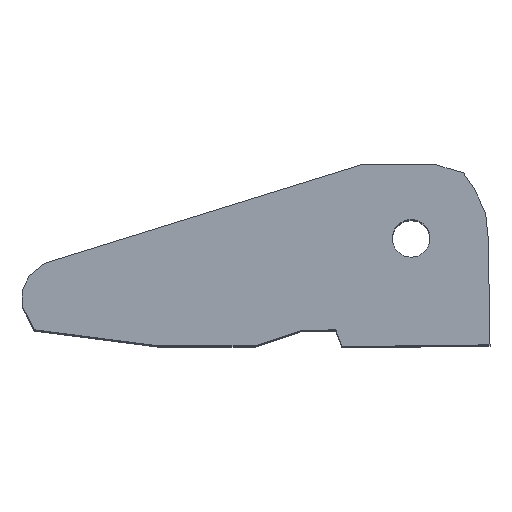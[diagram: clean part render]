
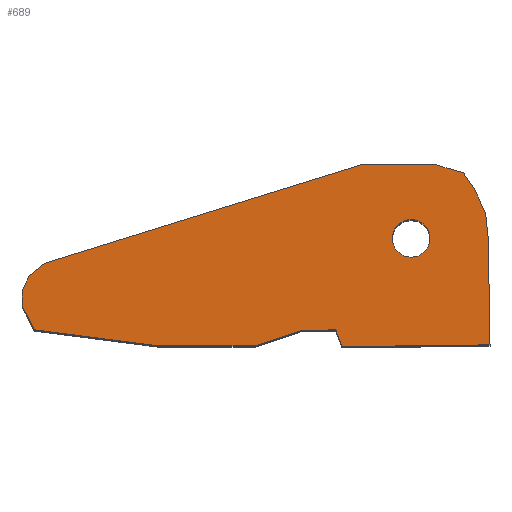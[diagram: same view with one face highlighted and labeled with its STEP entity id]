
A CAD part, top view. The second image highlights one B-rep face of the part: STEP entity #689.
In plain terms, the highlighted planar face has unit normal (0, 0, 1).
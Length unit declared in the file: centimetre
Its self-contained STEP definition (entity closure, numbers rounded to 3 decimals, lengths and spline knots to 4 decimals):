
#207=VERTEX_POINT('',#1357);
#208=VERTEX_POINT('',#1360);
#209=VERTEX_POINT('',#1361);
#210=VERTEX_POINT('',#1363);
#211=VERTEX_POINT('',#1365);
#212=VERTEX_POINT('',#1367);
#213=VERTEX_POINT('',#1369);
#214=VERTEX_POINT('',#1371);
#215=VERTEX_POINT('',#1373);
#216=VERTEX_POINT('',#1375);
#217=VERTEX_POINT('',#1377);
#218=VERTEX_POINT('',#1379);
#219=VERTEX_POINT('',#1381);
#220=VERTEX_POINT('',#1383);
#221=VERTEX_POINT('',#1385);
#222=VERTEX_POINT('',#1387);
#223=VERTEX_POINT('',#1389);
#224=VERTEX_POINT('',#1391);
#279=EDGE_CURVE('',#207,#207,#741,.T.);
#280=EDGE_CURVE('',#208,#209,#938,.T.);
#281=EDGE_CURVE('',#210,#208,#939,.T.);
#282=EDGE_CURVE('',#211,#210,#940,.T.);
#283=EDGE_CURVE('',#212,#211,#941,.T.);
#284=EDGE_CURVE('',#213,#212,#942,.T.);
#285=EDGE_CURVE('',#214,#213,#943,.T.);
#286=EDGE_CURVE('',#215,#214,#944,.T.);
#287=EDGE_CURVE('',#216,#215,#945,.T.);
#288=EDGE_CURVE('',#217,#216,#946,.T.);
#289=EDGE_CURVE('',#218,#217,#947,.T.);
#290=EDGE_CURVE('',#219,#218,#948,.T.);
#291=EDGE_CURVE('',#220,#219,#949,.T.);
#292=EDGE_CURVE('',#221,#220,#950,.T.);
#293=EDGE_CURVE('',#222,#221,#951,.T.);
#294=EDGE_CURVE('',#223,#222,#952,.T.);
#295=EDGE_CURVE('',#224,#223,#953,.T.);
#296=EDGE_CURVE('',#209,#224,#954,.T.);
#386=ORIENTED_EDGE('',*,*,#279,.T.);
#387=ORIENTED_EDGE('',*,*,#280,.F.);
#388=ORIENTED_EDGE('',*,*,#281,.F.);
#389=ORIENTED_EDGE('',*,*,#282,.F.);
#390=ORIENTED_EDGE('',*,*,#283,.F.);
#391=ORIENTED_EDGE('',*,*,#284,.F.);
#392=ORIENTED_EDGE('',*,*,#285,.F.);
#393=ORIENTED_EDGE('',*,*,#286,.F.);
#394=ORIENTED_EDGE('',*,*,#287,.F.);
#395=ORIENTED_EDGE('',*,*,#288,.F.);
#396=ORIENTED_EDGE('',*,*,#289,.F.);
#397=ORIENTED_EDGE('',*,*,#290,.F.);
#398=ORIENTED_EDGE('',*,*,#291,.F.);
#399=ORIENTED_EDGE('',*,*,#292,.F.);
#400=ORIENTED_EDGE('',*,*,#293,.F.);
#401=ORIENTED_EDGE('',*,*,#294,.F.);
#402=ORIENTED_EDGE('',*,*,#295,.F.);
#403=ORIENTED_EDGE('',*,*,#296,.F.);
#598=EDGE_LOOP('',(#386));
#599=EDGE_LOOP('',(#387,#388,#389,#390,#391,#392,#393,#394,#395,#396,#397,
#398,#399,#400,#401,#402,#403));
#644=FACE_BOUND('',#598,.T.);
#645=FACE_BOUND('',#599,.T.);
#689=ADVANCED_FACE('',(#644,#645),#1221,.T.);
#741=CIRCLE('',#1071,1.27);
#938=LINE('',#1359,#1130);
#939=LINE('',#1362,#1131);
#940=LINE('',#1364,#1132);
#941=LINE('',#1366,#1133);
#942=LINE('',#1368,#1134);
#943=LINE('',#1370,#1135);
#944=LINE('',#1372,#1136);
#945=LINE('',#1374,#1137);
#946=LINE('',#1376,#1138);
#947=LINE('',#1378,#1139);
#948=LINE('',#1380,#1140);
#949=LINE('',#1382,#1141);
#950=LINE('',#1384,#1142);
#951=LINE('',#1386,#1143);
#952=LINE('',#1388,#1144);
#953=LINE('',#1390,#1145);
#954=LINE('',#1392,#1146);
#1071=AXIS2_PLACEMENT_3D('',#1356,#1584,#1585);
#1072=AXIS2_PLACEMENT_3D('',#1358,#1586,$);
#1130=VECTOR('',#1587,1.);
#1131=VECTOR('',#1588,1.);
#1132=VECTOR('',#1589,1.);
#1133=VECTOR('',#1590,1.);
#1134=VECTOR('',#1591,1.);
#1135=VECTOR('',#1592,1.);
#1136=VECTOR('',#1593,1.);
#1137=VECTOR('',#1594,1.);
#1138=VECTOR('',#1595,1.);
#1139=VECTOR('',#1596,1.);
#1140=VECTOR('',#1597,1.);
#1141=VECTOR('',#1598,1.);
#1142=VECTOR('',#1599,1.);
#1143=VECTOR('',#1600,1.);
#1144=VECTOR('',#1601,1.);
#1145=VECTOR('',#1602,1.);
#1146=VECTOR('',#1603,1.);
#1221=PLANE('',#1072);
#1356=CARTESIAN_POINT('',(190.9706,35.2673,50.8));
#1357=CARTESIAN_POINT('',(189.7006,35.2673,50.8));
#1358=CARTESIAN_POINT('',(181.9646,32.9095,50.8));
#1359=CARTESIAN_POINT('',(185.8824,29.0916,50.8));
#1360=CARTESIAN_POINT('',(185.8824,29.0916,50.8));
#1361=CARTESIAN_POINT('',(183.4886,29.0317,50.8));
#1362=CARTESIAN_POINT('',(186.3013,27.9546,50.8));
#1363=CARTESIAN_POINT('',(186.3013,27.9546,50.8));
#1364=CARTESIAN_POINT('',(196.2952,28.0742,50.8));
#1365=CARTESIAN_POINT('',(196.2952,28.0742,50.8));
#1366=CARTESIAN_POINT('',(196.1755,35.3153,50.8));
#1367=CARTESIAN_POINT('',(196.1755,35.3153,50.8));
#1368=CARTESIAN_POINT('',(195.9959,36.9311,50.8));
#1369=CARTESIAN_POINT('',(195.9959,36.9311,50.8));
#1370=CARTESIAN_POINT('',(195.2778,38.5469,50.8));
#1371=CARTESIAN_POINT('',(195.2778,38.5469,50.8));
#1372=CARTESIAN_POINT('',(194.4998,39.6839,50.8));
#1373=CARTESIAN_POINT('',(194.4998,39.6839,50.8));
#1374=CARTESIAN_POINT('',(192.7045,40.2225,50.8));
#1375=CARTESIAN_POINT('',(192.7045,40.2225,50.8));
#1376=CARTESIAN_POINT('',(187.7375,40.2823,50.8));
#1377=CARTESIAN_POINT('',(187.7375,40.2823,50.8));
#1378=CARTESIAN_POINT('',(166.1939,33.5798,50.8));
#1379=CARTESIAN_POINT('',(166.1939,33.5798,50.8));
#1380=CARTESIAN_POINT('',(165.1765,32.742,50.8));
#1381=CARTESIAN_POINT('',(165.1765,32.742,50.8));
#1382=CARTESIAN_POINT('',(164.6978,31.6649,50.8));
#1383=CARTESIAN_POINT('',(164.6978,31.6649,50.8));
#1384=CARTESIAN_POINT('',(164.7576,30.5877,50.8));
#1385=CARTESIAN_POINT('',(164.7576,30.5877,50.8));
#1386=CARTESIAN_POINT('',(165.5356,29.0916,50.8));
#1387=CARTESIAN_POINT('',(165.5356,29.0916,50.8));
#1388=CARTESIAN_POINT('',(173.8538,28.0144,50.8));
#1389=CARTESIAN_POINT('',(173.8538,28.0144,50.8));
#1390=CARTESIAN_POINT('',(180.4366,28.0144,50.8));
#1391=CARTESIAN_POINT('',(180.4366,28.0144,50.8));
#1392=CARTESIAN_POINT('',(183.4886,29.0317,50.8));
#1584=DIRECTION('',(0.,0.,-1.));
#1585=DIRECTION('',(1.27,0.,0.));
#1586=DIRECTION('',(0.,0.,1.));
#1587=DIRECTION('',(-1.,-0.025,0.));
#1588=DIRECTION('',(-0.346,0.938,0.));
#1589=DIRECTION('',(-1.,-0.012,0.));
#1590=DIRECTION('',(0.017,-1.,0.));
#1591=DIRECTION('',(0.11,-0.994,0.));
#1592=DIRECTION('',(0.406,-0.914,0.));
#1593=DIRECTION('',(0.565,-0.825,0.));
#1594=DIRECTION('',(0.958,-0.287,0.));
#1595=DIRECTION('',(1.,-0.012,0.));
#1596=DIRECTION('',(0.955,0.297,0.));
#1597=DIRECTION('',(0.772,0.636,0.));
#1598=DIRECTION('',(0.406,0.914,0.));
#1599=DIRECTION('',(-0.055,0.998,0.));
#1600=DIRECTION('',(-0.461,0.887,0.));
#1601=DIRECTION('',(-0.992,0.128,0.));
#1602=DIRECTION('',(-1.,0.,0.));
#1603=DIRECTION('',(-0.949,-0.316,0.));
